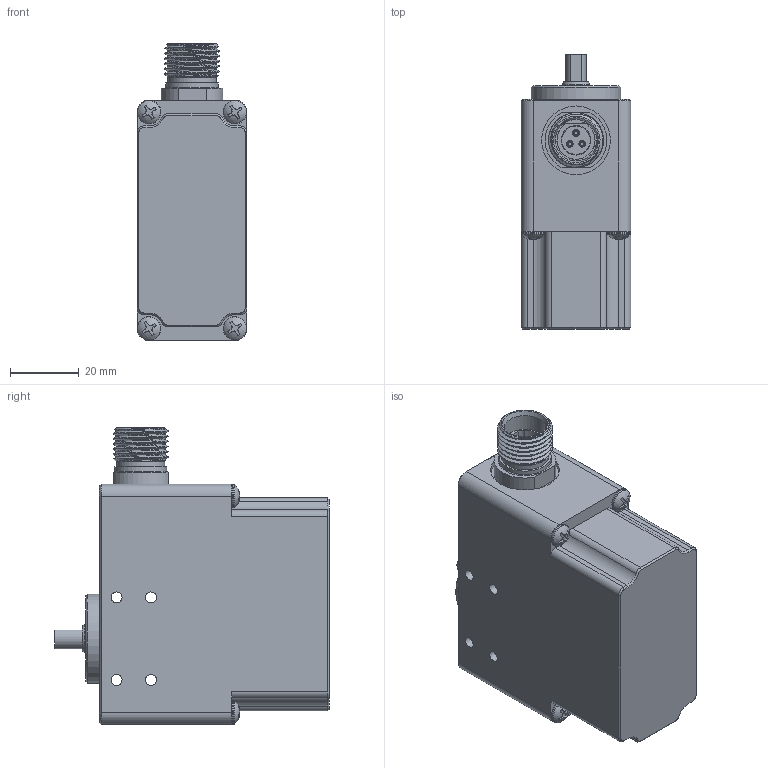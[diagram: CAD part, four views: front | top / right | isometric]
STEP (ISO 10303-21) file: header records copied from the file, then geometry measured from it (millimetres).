
FILE_DESCRIPTION (( 'STEP AP203' ), '1' );
FILE_NAME ('SER-20XX Servo.STEP', '2023-01-26T17:15:37', ( '' ), ( '' ), 'SwSTEP 2.0', 'SolidWorks 2022', '' );
FILE_SCHEMA (( 'CONFIG_CONTROL_DESIGN' ));
Length unit declared in the file: millimetre
Products named in the file (1): SER-20XX Servo
Bounding box: 32 x 80.05 x 86.5 mm (x, y, z)
Volume: 141756 mm3; surface area: 24060.6 mm2
Topology: 2 solids, 13 shells, 539 faces, 1569 edges, 1055 vertices
Faces by surface type: cylinder 267, plane 169, cone 66, torus 18, bspline 15, sphere 4
Full cylindrical faces by diameter (mm): 1.524 x3, 1.905 x3, 1.956 x3, 2.5 x1, 2.9 x36, 3.2 x4, 3.6 x4, 6.858 x4, 8 x1, 8.3 x1, 9.95 x1, 10.2 x1, 10.7 x1, 11.608 x1, 12.1 x1, 14 x1, 15.1 x1, 15.2 x1, 20 x1, 26 x1
Entity records: 29700 total; most frequent: CARTESIAN_POINT 17638, ORIENTED_EDGE 2720, DIRECTION 2101, EDGE_CURVE 1360, VERTEX_POINT 956, AXIS2_PLACEMENT_3D 821, EDGE_LOOP 636, FACE_OUTER_BOUND 561
